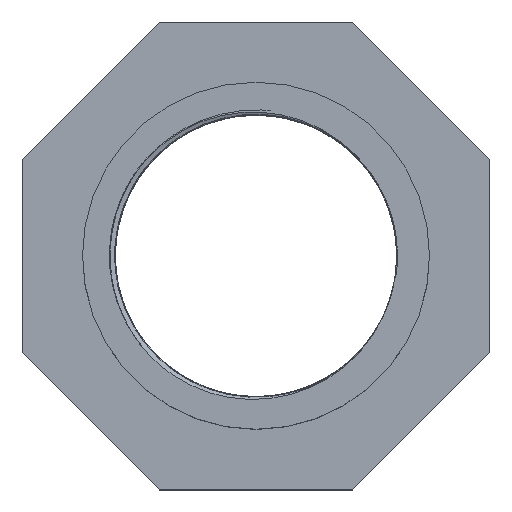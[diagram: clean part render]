
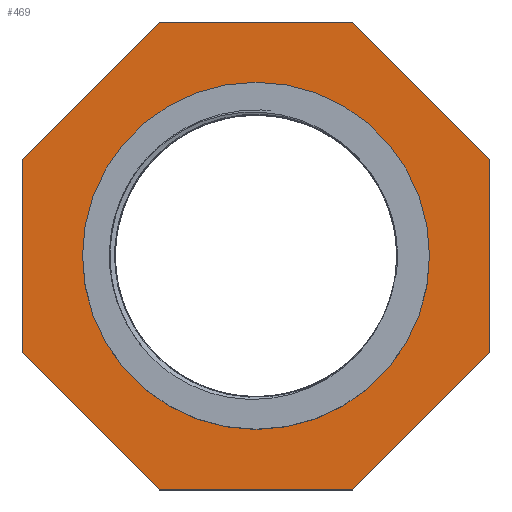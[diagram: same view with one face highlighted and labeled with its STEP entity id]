
A CAD part, top view. The second image highlights one B-rep face of the part: STEP entity #469.
In plain terms, the highlighted planar face has unit normal (0, 0, 1).
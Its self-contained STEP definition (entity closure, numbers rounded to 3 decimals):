
#16=FACE_BOUND('',#107,.T.);
#38=PLANE('',#497);
#49=CIRCLE('',#498,44.5);
#76=FACE_OUTER_BOUND('',#106,.T.);
#106=EDGE_LOOP('',(#411,#412,#413,#414,#415,#416,#417,#418));
#107=EDGE_LOOP('',(#419));
#126=LINE('',#12693,#156);
#130=LINE('',#12701,#160);
#133=LINE('',#12707,#163);
#136=LINE('',#12713,#166);
#139=LINE('',#12719,#169);
#142=LINE('',#12725,#172);
#145=LINE('',#12731,#175);
#148=LINE('',#12736,#178);
#156=VECTOR('',#539,49.706);
#160=VECTOR('',#545,49.706);
#163=VECTOR('',#550,49.706);
#166=VECTOR('',#555,49.706);
#169=VECTOR('',#560,49.706);
#172=VECTOR('',#565,49.706);
#175=VECTOR('',#570,49.706);
#178=VECTOR('',#575,49.706);
#224=VERTEX_POINT('',#12691);
#225=VERTEX_POINT('',#12692);
#228=VERTEX_POINT('',#12700);
#230=VERTEX_POINT('',#12706);
#232=VERTEX_POINT('',#12712);
#234=VERTEX_POINT('',#12718);
#236=VERTEX_POINT('',#12724);
#238=VERTEX_POINT('',#12730);
#240=VERTEX_POINT('',#12740);
#280=EDGE_CURVE('',#224,#225,#126,.T.);
#284=EDGE_CURVE('',#228,#224,#130,.T.);
#287=EDGE_CURVE('',#230,#228,#133,.T.);
#290=EDGE_CURVE('',#232,#230,#136,.T.);
#293=EDGE_CURVE('',#234,#232,#139,.T.);
#296=EDGE_CURVE('',#236,#234,#142,.T.);
#299=EDGE_CURVE('',#238,#236,#145,.T.);
#302=EDGE_CURVE('',#225,#238,#148,.T.);
#304=EDGE_CURVE('',#240,#240,#49,.T.);
#411=ORIENTED_EDGE('',*,*,#302,.F.);
#412=ORIENTED_EDGE('',*,*,#280,.F.);
#413=ORIENTED_EDGE('',*,*,#284,.F.);
#414=ORIENTED_EDGE('',*,*,#287,.F.);
#415=ORIENTED_EDGE('',*,*,#290,.F.);
#416=ORIENTED_EDGE('',*,*,#293,.F.);
#417=ORIENTED_EDGE('',*,*,#296,.F.);
#418=ORIENTED_EDGE('',*,*,#299,.F.);
#419=ORIENTED_EDGE('',*,*,#304,.F.);
#469=ADVANCED_FACE('',(#76,#16),#38,.T.);
#497=AXIS2_PLACEMENT_3D('',#12739,#579,#580);
#498=AXIS2_PLACEMENT_3D('',#12741,#581,#582);
#539=DIRECTION('',(1.,0.,0.));
#545=DIRECTION('',(0.707,0.707,0.));
#550=DIRECTION('',(0.,1.,0.));
#555=DIRECTION('',(-0.707,0.707,0.));
#560=DIRECTION('',(-1.,0.,0.));
#565=DIRECTION('',(-0.707,-0.707,0.));
#570=DIRECTION('',(0.,-1.,0.));
#575=DIRECTION('',(0.707,-0.707,0.));
#579=DIRECTION('center_axis',(0.,0.,1.));
#580=DIRECTION('ref_axis',(1.,0.,0.));
#581=DIRECTION('center_axis',(0.,0.,1.));
#582=DIRECTION('ref_axis',(1.,0.,0.));
#12691=CARTESIAN_POINT('',(-24.853,60.,56.));
#12692=CARTESIAN_POINT('',(24.853,60.,56.));
#12693=CARTESIAN_POINT('',(-24.853,60.,56.));
#12700=CARTESIAN_POINT('',(-60.,24.853,56.));
#12701=CARTESIAN_POINT('',(-60.,24.853,56.));
#12706=CARTESIAN_POINT('',(-60.,-24.853,56.));
#12707=CARTESIAN_POINT('',(-60.,-24.853,56.));
#12712=CARTESIAN_POINT('',(-24.853,-60.,56.));
#12713=CARTESIAN_POINT('',(-24.853,-60.,56.));
#12718=CARTESIAN_POINT('',(24.853,-60.,56.));
#12719=CARTESIAN_POINT('',(24.853,-60.,56.));
#12724=CARTESIAN_POINT('',(60.,-24.853,56.));
#12725=CARTESIAN_POINT('',(60.,-24.853,56.));
#12730=CARTESIAN_POINT('',(60.,24.853,56.));
#12731=CARTESIAN_POINT('',(60.,24.853,56.));
#12736=CARTESIAN_POINT('',(24.853,60.,56.));
#12739=CARTESIAN_POINT('Origin',(44.5,0.,56.));
#12740=CARTESIAN_POINT('',(44.5,0.,56.));
#12741=CARTESIAN_POINT('Origin',(0.,0.,56.));
